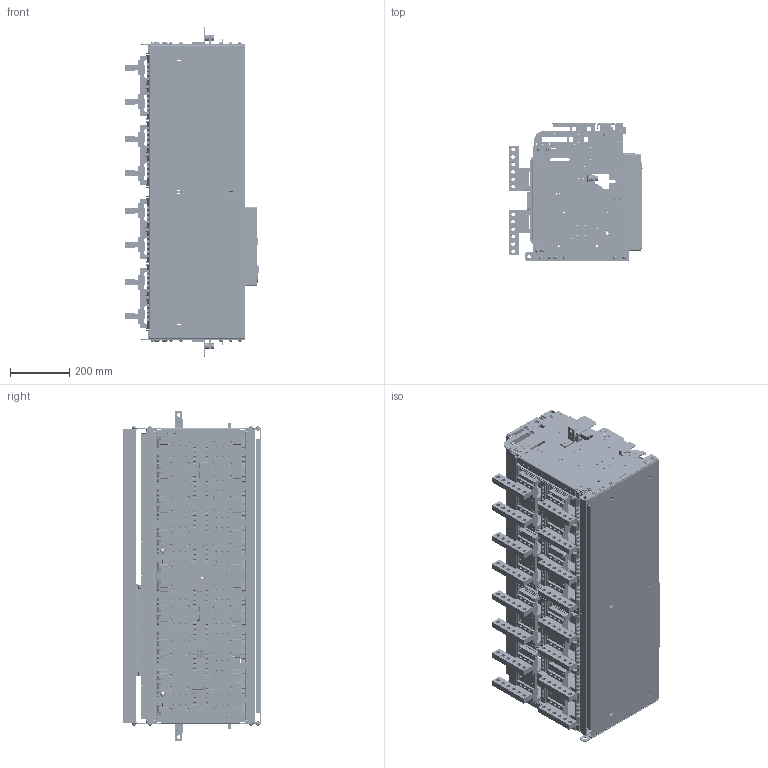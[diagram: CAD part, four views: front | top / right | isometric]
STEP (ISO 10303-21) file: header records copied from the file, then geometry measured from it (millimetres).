
FILE_DESCRIPTION((''),'2;1');
FILE_NAME('HG_30_D504_634V_ASM_ASM','2019-03-27T',('HHI'),(''),'PRO/ENGINEER BY PARAMETRIC TECHNOLOGY CORPORATION, 2012453','PRO/ENGINEER BY PARAMETRIC TECHNOLOGY CORPORATION, 2012453','');
FILE_SCHEMA(('CONFIG_CONTROL_DESIGN'));
Products named in the file (61): 3AT-03371_8; PRT0590; PRT0591; MAIN_SC-DR-FRAME_L_56_ASM_ASM; 1AT-00887S02_ASM_9_ASM_ASM; 3AT-04943_8; ACB_P_PH_SCREW_M6_L12_SW_8; 3AT-03372_8; PRT0592; PRT0593; MAIN_SC-DR-FRAME_R_55_ASM_ASM; 1AT-00888S02_ASM_9_ASM_ASM; 3AT-04945_8; CONTROL_JACK_FOR_CRADLE_8; 9239000363_ASM_9_ASM_ASM; 1AT-00880S08_ASM_9_ASM_ASM; 3AT-05064_8; 4AT-06870_8; 3AT-05065_ASM_8_ASM_ASM; 1AT-00752_AF0_8; ACB_HEX_NUT_M6_8; 1AT-01051_ASM_8_ASM_ASM; 3AT-05066_8; 3AT-05067_ASM_8_ASM_ASM; 3AT-05062_8; 3AT-05072_3; 3AT-05068_ASM_4_ASM_ASM; P_CH_BOLT_M6_35_3; PRT0594; D504_634V_ASM_3_ASM_ASM; PRT0595; PRT0597; PRT0598; PRT0599; PRT0600; ASM0169_ASM; PRT0601; PRT0602; PRT0603; ASM0170_ASM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
Assembly tree (243 placements, depth 6):
  HG_30_D504_634V_ASM_ASM
    30_D504_634V_ASM_ASM_ASM
      D504_634V_ASM_3_ASM_ASM
        1AT-00887S02_ASM_9_ASM_ASM
          3AT-03371_8
          MAIN_SC-DR-FRAME_L_56_ASM_ASM
            PRT0590
            PRT0591
        3AT-04943_8
        ACB_P_PH_SCREW_M6_L12_SW_8  x22
        1AT-00888S02_ASM_9_ASM_ASM
          3AT-03372_8
          MAIN_SC-DR-FRAME_R_55_ASM_ASM
            PRT0592
            PRT0593
        1AT-00880S08_ASM_9_ASM_ASM
          3AT-04945_8
          9239000363_ASM_9_ASM_ASM
            CONTROL_JACK_FOR_CRADLE_8
        3AT-05065_ASM_8_ASM_ASM
          3AT-05064_8
          4AT-06870_8  x10
        1AT-01051_ASM_8_ASM_ASM  x2
          1AT-00752_AF0_8
          ACB_HEX_NUT_M6_8
        3AT-05067_ASM_8_ASM_ASM
          3AT-05066_8
          4AT-06870_8  x8
        3AT-05062_8  x32
        3AT-05068_ASM_4_ASM_ASM  x8
          3AT-05072_3
        P_CH_BOLT_M6_35_3  x56
        PRT0594  x16
      ASM0167_ASM
        ASM0168_ASM
          PRT0595
          ASM0169_ASM
            PRT0597
            PRT0598
            PRT0599
            PRT0600
          ASM0170_ASM
            PRT0601
            PRT0602
            PRT0603
          PRT0606
        PRT0607  x2
        PRT0608
      PRT0609
      ASM0171_ASM
        PRT0610
        PRT0611
        PRT0612
        PRT0613
      ASM0172_ASM
        PRT0614
        PRT0615
        FIX_BLOCK_CRADLE_6
        BOLT_5
    HG_FRONT_COVER_40
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Bounding box: 453.03 x 466.35 x 1108.2 mm (x, y, z)
Volume: 15941897.4 mm3; surface area: 7972661.7 mm2
Topology: 261 solids, 261 shells, 25641 faces, 71932 edges, 46083 vertices
Faces by surface type: plane 17184, cylinder 6248, cone 1232, torus 357, sphere 328, bspline 151, extrusion 141
Entity records: 561239 total; most frequent: CARTESIAN_POINT 106652, ORIENTED_EDGE 97486, DIRECTION 90077, EDGE_CURVE 48743, VECTOR 39689, LINE 39548, VERTEX_POINT 31922, AXIS2_PLACEMENT_3D 25194
